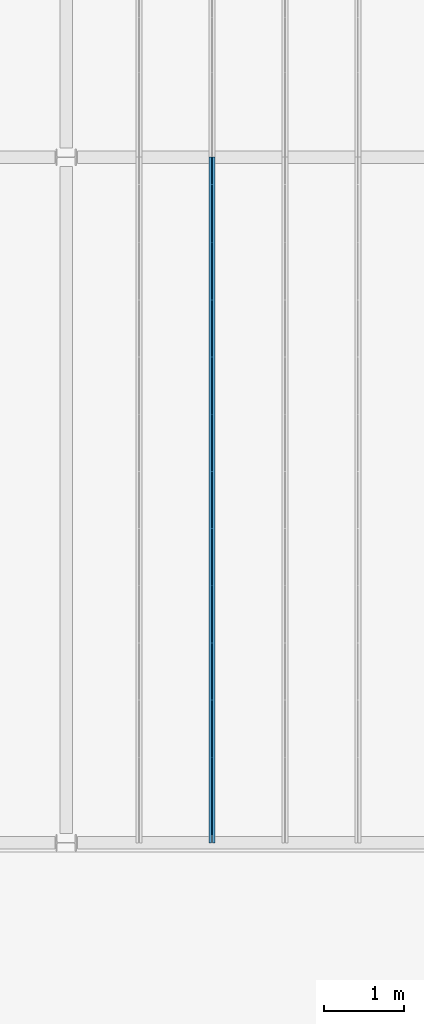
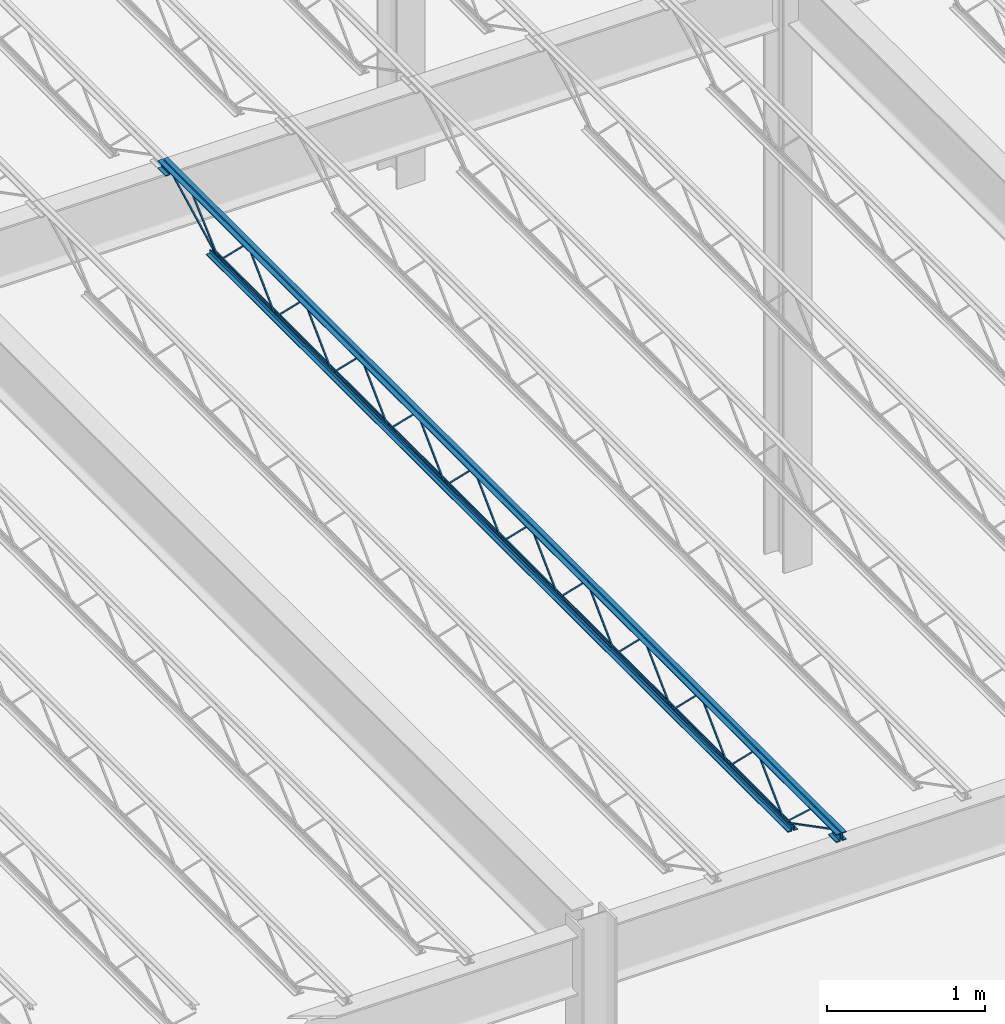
# One storey, part 41 of 119: 1 beam.
"""IFC2X3 building model written with IfcOpenShell, lengths in metres."""

from ifc_helpers import new_model, entity, si_unit, converted_unit, frame, origin, place, context, project, spatial, face_set, surface_model, element, save


model = new_model("IFC2X3")

# Units and contexts
model_context = context("Model", 3, precision=1e-09, world=origin())
plan_context = context("Plan", 3, precision=1e-09, world=origin())
ifc_project = project(units=[si_unit("LENGTHUNIT", "METRE"), si_unit("AREAUNIT", "SQUARE_METRE"), si_unit("VOLUMEUNIT", "CUBIC_METRE"), converted_unit("PLANEANGLEUNIT", "DEGREE", entity("IfcRatioMeasure", 0.01745329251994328), si_unit("PLANEANGLEUNIT", "RADIAN"), dimensions=[0, 0, 0, 0, 0, 0, 0]), si_unit("TIMEUNIT", "SECOND")], contexts=[model_context, plan_context])

# Site, building, storey
site_placement = place(None, origin())
site = spatial("IfcSite", under=ifc_project, at=site_placement, Name="Default", CompositionType="ELEMENT")
building_placement = place(site_placement, origin())
building = spatial("IfcBuilding", under=site, at=building_placement, CompositionType="ELEMENT")
storey_placement = place(building_placement, frame((0.0, 0.0, 4.570000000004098)))
storey = spatial("IfcBuildingStorey", under=building, at=storey_placement, Name="Second Floor", CompositionType="ELEMENT", Elevation=4.570000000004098)

# Beam
beam_placement = place(storey_placement, frame((-24.6538928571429, 10.04000000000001, 4.323999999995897), z_axis=(0.0, 0.0, 1.0), x_axis=(-1.0, 0.0, 0.0)))
element("IfcBeam", 1, at=beam_placement, inside=storey, Name="M_K-Series Bar Joist-Rod Web:14K1:14K1", ObjectType="M_K-Series Bar Joist-Rod Web:14K1", context=model_context, shape_type="SurfaceModel", body=[
    surface_model("IfcFaceBasedSurfaceModel", [(-0.03200000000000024, -2.141200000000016, 0.01110000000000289), (-0.04149999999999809, -2.141200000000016, 0.01110000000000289), (-0.04149999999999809, -2.141200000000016, 0.001600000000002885), (-0.03200000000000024, -2.141200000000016, 0.001600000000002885), (-0.04149999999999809, -2.139961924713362, 0.01110000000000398), (-0.03200000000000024, -2.139961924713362, 0.01110000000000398), (-0.04149999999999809, -2.136088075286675, 0.001600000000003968), (-0.04149999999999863, -1.785138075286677, 0.3449000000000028), (-0.04149999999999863, -1.782661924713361, 0.3449000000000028), (-0.04149999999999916, -1.431711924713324, 0.001600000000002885), (-0.04149999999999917, -1.426600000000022, 0.001600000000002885), (-0.04149999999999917, -1.426600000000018, 0.01110000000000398), (-0.04149999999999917, -1.427838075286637, 0.01110000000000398), (-0.04149999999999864, -1.778788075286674, 0.3544000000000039), (-0.04149999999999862, -1.789011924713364, 0.3544000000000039), (-0.03199999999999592, -2.136088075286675, 0.001600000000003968), (-0.03200000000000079, -1.785138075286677, 0.3449000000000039), (-0.03200000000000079, -1.782661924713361, 0.3449000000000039), (-0.03200000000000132, -1.431711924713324, 0.001600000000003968), (-0.03200000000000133, -1.426600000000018, 0.001600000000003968), (-0.03200000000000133, -1.426600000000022, 0.01110000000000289), (-0.03200000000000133, -1.427838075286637, 0.01110000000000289), (-0.03200000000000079, -1.778788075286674, 0.3544000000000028), (-0.03200000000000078, -1.789011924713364, 0.3544000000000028), (-0.03199999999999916, -2.855800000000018, 0.01110000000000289), (-0.04149999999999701, -2.855800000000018, 0.01110000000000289), (-0.04149999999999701, -2.855800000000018, 0.001600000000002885), (-0.03199999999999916, -2.855800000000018, 0.001600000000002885), (-0.04149999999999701, -2.85456192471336, 0.01110000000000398), (-0.03199999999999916, -2.85456192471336, 0.01110000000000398), (-0.04149999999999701, -2.850688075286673, 0.001600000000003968), (-0.04149999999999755, -2.499738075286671, 0.3449000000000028), (-0.04149999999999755, -2.497261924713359, 0.3449000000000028), (-0.04149999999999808, -2.146311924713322, 0.001600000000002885), (-0.04149999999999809, -2.141200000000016, 0.01110000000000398), (-0.04149999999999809, -2.142438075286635, 0.01110000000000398), (-0.04149999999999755, -2.493388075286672, 0.3544000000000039), (-0.04149999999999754, -2.503611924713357, 0.3544000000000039), (-0.03199999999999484, -2.850688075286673, 0.001600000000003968), (-0.0319999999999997, -2.499738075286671, 0.3449000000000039), (-0.0319999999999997, -2.497261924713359, 0.3449000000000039), (-0.03200000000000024, -2.146311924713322, 0.001600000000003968), (-0.03200000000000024, -2.141200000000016, 0.001600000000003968), (-0.03200000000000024, -2.142438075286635, 0.01110000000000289), (-0.03199999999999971, -2.493388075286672, 0.3544000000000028), (-0.0319999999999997, -2.503611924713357, 0.3544000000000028), (-0.03200000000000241, -3.570400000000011, 0.01110000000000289), (-0.04150000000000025, -3.570400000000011, 0.01110000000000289), (-0.04150000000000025, -3.570400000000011, 0.001600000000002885), (-0.03200000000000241, -3.570400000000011, 0.001600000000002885), (-0.04150000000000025, -3.569161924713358, 0.01110000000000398), (-0.03200000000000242, -3.569161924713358, 0.01110000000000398), (-0.04150000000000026, -3.565288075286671, 0.001600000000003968), (-0.04150000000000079, -3.214338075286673, 0.3449000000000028), (-0.04150000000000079, -3.211861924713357, 0.3449000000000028), (-0.04150000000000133, -2.86091192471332, 0.001600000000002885), (-0.04149999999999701, -2.855800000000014, 0.001600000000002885), (-0.04150000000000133, -2.855800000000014, 0.01110000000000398), (-0.04150000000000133, -2.857038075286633, 0.01110000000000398), (-0.0415000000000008, -3.20798807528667, 0.3544000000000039), (-0.04150000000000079, -3.218211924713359, 0.3544000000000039), (-0.03199999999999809, -3.565288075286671, 0.001600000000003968), (-0.03200000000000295, -3.214338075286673, 0.3449000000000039), (-0.03200000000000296, -3.211861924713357, 0.3449000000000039), (-0.03200000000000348, -2.86091192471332, 0.001600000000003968), (-0.03200000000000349, -2.855800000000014, 0.001600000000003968), (-0.03199999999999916, -2.855800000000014, 0.01110000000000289), (-0.03200000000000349, -2.857038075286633, 0.01110000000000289), (-0.03200000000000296, -3.20798807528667, 0.3544000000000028), (-0.03200000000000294, -3.218211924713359, 0.3544000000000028), (-0.03200000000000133, -4.285000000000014, 0.01110000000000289), (-0.04149999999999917, -4.285000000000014, 0.01110000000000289), (-0.04149999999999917, -4.285000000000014, 0.001600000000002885), (-0.03200000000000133, -4.285000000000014, 0.001600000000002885), (-0.04149999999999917, -4.283761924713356, 0.01110000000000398), (-0.03200000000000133, -4.283761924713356, 0.01110000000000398), (-0.04149999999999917, -4.279888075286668, 0.001600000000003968), (-0.0414999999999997, -3.928938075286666, 0.3449000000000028), (-0.04149999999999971, -3.926461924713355, 0.3449000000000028), (-0.04150000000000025, -3.575511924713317, 0.001600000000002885), (-0.04150000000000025, -3.570400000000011, 0.01110000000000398), (-0.04150000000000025, -3.57163807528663, 0.01110000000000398), (-0.04149999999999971, -3.922588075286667, 0.3544000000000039), (-0.0414999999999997, -3.932811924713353, 0.3544000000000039), (-0.031999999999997, -4.279888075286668, 0.001600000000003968), (-0.03200000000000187, -3.928938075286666, 0.3449000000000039), (-0.03200000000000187, -3.926461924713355, 0.3449000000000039), (-0.0320000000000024, -3.575511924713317, 0.001600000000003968), (-0.03200000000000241, -3.570400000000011, 0.001600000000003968), (-0.03200000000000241, -3.57163807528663, 0.01110000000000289), (-0.03200000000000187, -3.922588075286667, 0.3544000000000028), (-0.03200000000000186, -3.932811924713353, 0.3544000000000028), (-0.03200000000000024, -4.999600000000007, 0.01110000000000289), (-0.04149999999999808, -4.999600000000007, 0.01110000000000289), (-0.04149999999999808, -4.999600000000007, 0.001600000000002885), (-0.03200000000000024, -4.999600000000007, 0.001600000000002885), (-0.04149999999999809, -4.998361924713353, 0.01110000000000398), (-0.03200000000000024, -4.998361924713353, 0.01110000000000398), (-0.04149999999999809, -4.994488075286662, 0.001600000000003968), (-0.04149999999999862, -4.643538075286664, 0.3449000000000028), (-0.04149999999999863, -4.641061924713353, 0.3449000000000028), (-0.04149999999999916, -4.290111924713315, 0.001600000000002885), (-0.04149999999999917, -4.285000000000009, 0.001600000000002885), (-0.04149999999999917, -4.285000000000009, 0.01110000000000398), (-0.04149999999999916, -4.286238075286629, 0.01110000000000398), (-0.04149999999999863, -4.637188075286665, 0.3544000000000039), (-0.04149999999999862, -4.647411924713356, 0.3544000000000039), (-0.03199999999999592, -4.994488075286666, 0.001600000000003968), (-0.03200000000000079, -4.643538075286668, 0.3449000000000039), (-0.03200000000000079, -4.641061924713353, 0.3449000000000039), (-0.03200000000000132, -4.290111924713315, 0.001600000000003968), (-0.03200000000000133, -4.285000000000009, 0.001600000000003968), (-0.03200000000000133, -4.285000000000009, 0.01110000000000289), (-0.03200000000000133, -4.286238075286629, 0.01110000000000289), (-0.03200000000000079, -4.637188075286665, 0.3544000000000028), (-0.03200000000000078, -4.647411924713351, 0.3544000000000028), (-0.03200000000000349, -5.714200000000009, 0.01110000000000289), (-0.04150000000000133, -5.714200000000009, 0.01110000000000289), (-0.04150000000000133, -5.714200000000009, 0.001600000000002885), (-0.03200000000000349, -5.714200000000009, 0.001600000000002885), (-0.04150000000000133, -5.712961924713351, 0.01110000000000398), (-0.03200000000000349, -5.712961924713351, 0.01110000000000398), (-0.04149999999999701, -5.709088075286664, 0.001600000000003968), (-0.04149999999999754, -5.358138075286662, 0.3449000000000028), (-0.04149999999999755, -5.35566192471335, 0.3449000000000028), (-0.04149999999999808, -5.004711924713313, 0.001600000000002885), (-0.04150000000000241, -4.999600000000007, 0.01110000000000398), (-0.04150000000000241, -5.000838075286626, 0.01110000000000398), (-0.04150000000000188, -5.351788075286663, 0.3544000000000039), (-0.04150000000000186, -5.362011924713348, 0.3544000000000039), (-0.03199999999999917, -5.709088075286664, 0.001600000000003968), (-0.03200000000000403, -5.358138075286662, 0.3449000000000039), (-0.03200000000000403, -5.35566192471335, 0.3449000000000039), (-0.03200000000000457, -5.004711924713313, 0.001600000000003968), (-0.03200000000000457, -4.999600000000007, 0.001600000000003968), (-0.03200000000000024, -5.000838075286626, 0.01110000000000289), (-0.03199999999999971, -5.351788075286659, 0.3544000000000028), (-0.0319999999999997, -5.362011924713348, 0.3544000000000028), (-0.03200000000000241, -6.428800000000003, 0.01110000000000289), (-0.04150000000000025, -6.428800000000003, 0.01110000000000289), (-0.04150000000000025, -6.428800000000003, 0.001600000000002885), (-0.03200000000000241, -6.428800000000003, 0.001600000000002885), (-0.04150000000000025, -6.427561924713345, 0.01110000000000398), (-0.03200000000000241, -6.427561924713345, 0.01110000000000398), (-0.04150000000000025, -6.423688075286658, 0.001600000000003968), (-0.04150000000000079, -6.07273807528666, 0.3449000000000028), (-0.04150000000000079, -6.070261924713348, 0.3449000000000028), (-0.04150000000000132, -5.719311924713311, 0.001600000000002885), (-0.04150000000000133, -5.714200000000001, 0.001600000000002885), (-0.04150000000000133, -5.714200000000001, 0.01110000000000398), (-0.04150000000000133, -5.715438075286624, 0.01110000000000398), (-0.04150000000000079, -6.066388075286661, 0.3544000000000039), (-0.04150000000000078, -6.076611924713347, 0.3544000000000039), (-0.03199999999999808, -6.423688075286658, 0.001600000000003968), (-0.03200000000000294, -6.07273807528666, 0.3449000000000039), (-0.03200000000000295, -6.070261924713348, 0.3449000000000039), (-0.03200000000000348, -5.719311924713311, 0.001600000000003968), (-0.03200000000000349, -5.714200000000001, 0.001600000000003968), (-0.03200000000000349, -5.714200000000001, 0.01110000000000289), (-0.03200000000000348, -5.715438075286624, 0.01110000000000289), (-0.03200000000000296, -6.066388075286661, 0.3544000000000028), (-0.03200000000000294, -6.076611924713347, 0.3544000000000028), (-0.03200000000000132, -7.143400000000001, 0.01110000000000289), (-0.04149999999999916, -7.143400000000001, 0.01110000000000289), (-0.04149999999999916, -7.143400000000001, 0.001600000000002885), (-0.03200000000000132, -7.143400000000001, 0.001600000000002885), (-0.04149999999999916, -7.142161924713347, 0.01110000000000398), (-0.03200000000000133, -7.142161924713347, 0.01110000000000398), (-0.04149999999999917, -7.13828807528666, 0.001600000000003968), (-0.0414999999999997, -6.787338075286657, 0.3449000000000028), (-0.0414999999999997, -6.784861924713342, 0.3449000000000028), (-0.04150000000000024, -6.433911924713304, 0.001600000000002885), (-0.04150000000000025, -6.428800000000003, 0.01110000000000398), (-0.04150000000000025, -6.430038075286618, 0.01110000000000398), (-0.04149999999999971, -6.780988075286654, 0.3544000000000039), (-0.0414999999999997, -6.791211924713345, 0.3544000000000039), (-0.031999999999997, -7.13828807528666, 0.001600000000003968), (-0.03200000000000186, -6.787338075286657, 0.3449000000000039), (-0.03200000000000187, -6.784861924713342, 0.3449000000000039), (-0.0320000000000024, -6.433911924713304, 0.001600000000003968), (-0.03200000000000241, -6.428800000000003, 0.001600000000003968), (-0.0320000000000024, -6.430038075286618, 0.01110000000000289), (-0.03200000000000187, -6.780988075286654, 0.3544000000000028), (-0.03200000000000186, -6.791211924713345, 0.3544000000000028), (-0.03200000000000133, -1.426600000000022, 0.01109999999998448), (-0.04149999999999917, -1.426600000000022, 0.01109999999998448), (-0.04149999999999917, -1.426600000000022, 0.001599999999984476), (-0.03200000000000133, -1.426600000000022, 0.001599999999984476), (-0.04149999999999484, -1.425361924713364, 0.01109999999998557), (-0.031999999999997, -1.425361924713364, 0.01109999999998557), (-0.04149999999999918, -1.421488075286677, 0.001599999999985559), (-0.04149999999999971, -1.070538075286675, 0.3448999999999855), (-0.04149999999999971, -1.068061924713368, 0.3448999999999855), (-0.04150000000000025, -0.7171119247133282, 0.001599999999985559), (-0.04150000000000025, -0.7120000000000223, 0.001599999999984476), (-0.04150000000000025, -0.7120000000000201, 0.01109999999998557), (-0.04150000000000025, -0.713238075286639, 0.01109999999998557), (-0.04149999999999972, -1.064188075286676, 0.3543999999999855), (-0.0414999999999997, -1.074411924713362, 0.3543999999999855), (-0.031999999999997, -1.421488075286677, 0.001599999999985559), (-0.03199999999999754, -1.070538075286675, 0.3448999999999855), (-0.03199999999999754, -1.068061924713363, 0.3448999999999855), (-0.03199999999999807, -0.7171119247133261, 0.001599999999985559), (-0.03199999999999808, -0.7120000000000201, 0.001599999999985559), (-0.03200000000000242, -0.7120000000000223, 0.01109999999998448), (-0.03199999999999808, -0.7132380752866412, 0.01109999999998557), (-0.03199999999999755, -1.064188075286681, 0.3543999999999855), (-0.03199999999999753, -1.074411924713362, 0.3543999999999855), (-0.03200000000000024, -7.857999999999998, 0.01110000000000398), (-0.04149999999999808, -7.857999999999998, 0.01110000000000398), (-0.04149999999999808, -7.857999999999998, 0.001600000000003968), (-0.03200000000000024, -7.857999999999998, 0.001600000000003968), (-0.04149999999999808, -7.85676192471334, 0.01110000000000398), (-0.03200000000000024, -7.85676192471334, 0.01110000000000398), (-0.04149999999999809, -7.852888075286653, 0.001600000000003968), (-0.04149999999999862, -7.501938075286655, 0.3449000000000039), (-0.04149999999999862, -7.499461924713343, 0.3449000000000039), (-0.04149999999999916, -7.148511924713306, 0.001600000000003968), (-0.04149999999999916, -7.143399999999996, 0.001600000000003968), (-0.04149999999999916, -7.143399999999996, 0.01110000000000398), (-0.04149999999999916, -7.144638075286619, 0.01110000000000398), (-0.04149999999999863, -7.495588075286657, 0.3544000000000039), (-0.04149999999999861, -7.505811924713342, 0.3544000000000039), (-0.03199999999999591, -7.852888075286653, 0.001600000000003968), (-0.03200000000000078, -7.501938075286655, 0.3449000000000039), (-0.03200000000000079, -7.499461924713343, 0.3449000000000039), (-0.03200000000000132, -7.148511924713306, 0.001600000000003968), (-0.03200000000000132, -7.143399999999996, 0.001600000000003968), (-0.03200000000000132, -7.143399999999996, 0.01110000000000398), (-0.03200000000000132, -7.144638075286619, 0.01110000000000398), (-0.03200000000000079, -7.495588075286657, 0.3544000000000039), (-0.03200000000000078, -7.505811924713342, 0.3544000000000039), (-0.04150000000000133, 0.0, 0.3559999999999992), (-0.07350000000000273, 0.0, 0.3559999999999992), (-0.07350000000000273, 0.0, 0.3494999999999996), (-0.04799999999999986, 0.0, 0.3494999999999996), (-0.04799999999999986, 0.0, 0.3239999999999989), (-0.04150000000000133, 0.0, 0.3239999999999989), (-0.03200000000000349, 0.0, 0.3559999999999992), (-0.03200000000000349, 0.0, 0.3239999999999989), (-0.02550000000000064, 0.0, 0.3239999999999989), (-0.02550000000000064, 0.0, 0.3494999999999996), (0.0, 0.0, 0.3494999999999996), (0.0, 0.0, 0.3559999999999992), (-0.04149999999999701, -8.57, 0.3559999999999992), (-0.07349999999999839, -8.57, 0.3559999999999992), (-0.07349999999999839, -8.57, 0.3494999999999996), (-0.04799999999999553, -8.57, 0.3494999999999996), (-0.04799999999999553, -8.57, 0.3239999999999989), (-0.04149999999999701, -8.57, 0.3239999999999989), (-0.03199999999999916, -8.57, 0.3559999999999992), (-0.03199999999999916, -8.57, 0.3239999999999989), (-0.02549999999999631, -8.57, 0.3239999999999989), (-0.02549999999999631, -8.57, 0.3494999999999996), (0.0, -8.57, 0.3494999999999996), (0.0, -8.57, 0.3559999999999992), (-0.03199999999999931, -8.470000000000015, 0.2924999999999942), (0.0, -8.470000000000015, 0.2924999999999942), (0.0, -8.470000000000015, 0.2989999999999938), (-0.02550000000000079, -8.470000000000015, 0.2989999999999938), (-0.02550000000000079, -8.470000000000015, 0.3239999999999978), (-0.03199999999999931, -8.470000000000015, 0.3239999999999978), (-0.07349999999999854, -8.470000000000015, 0.2924999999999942), (-0.04149999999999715, -8.470000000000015, 0.2924999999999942), (-0.04149999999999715, -8.470000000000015, 0.3239999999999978), (-0.048, -8.470000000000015, 0.3239999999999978), (-0.048, -8.470000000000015, 0.2989999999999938), (-0.07349999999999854, -8.470000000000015, 0.2989999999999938), (-0.03199999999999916, -8.57, 0.2924999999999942), (0.0, -8.57, 0.2924999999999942), (0.0, -8.57, 0.2989999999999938), (-0.02550000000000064, -8.57, 0.2989999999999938), (-0.02550000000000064, -8.57, 0.3239999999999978), (-0.03199999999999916, -8.57, 0.3239999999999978), (-0.07349999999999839, -8.57, 0.2924999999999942), (-0.04149999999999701, -8.57, 0.2924999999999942), (-0.04149999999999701, -8.57, 0.3239999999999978), (-0.04799999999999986, -8.57, 0.3239999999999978), (-0.04799999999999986, -8.57, 0.2989999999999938), (-0.07349999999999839, -8.57, 0.2989999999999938), (-0.04150000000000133, 0.0, 0.2924999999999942), (-0.04150000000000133, 0.0, 0.3239999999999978), (-0.04800000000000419, 0.0, 0.3239999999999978), (-0.04800000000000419, 0.0, 0.2989999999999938), (-0.07350000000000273, 0.0, 0.2989999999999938), (-0.07350000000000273, 0.0, 0.2924999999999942), (-0.03200000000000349, 0.0, 0.2924999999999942), (0.0, 0.0, 0.2924999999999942), (0.0, 0.0, 0.2989999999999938), (-0.02550000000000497, 0.0, 0.2989999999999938), (-0.02550000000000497, 0.0, 0.3239999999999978), (-0.03200000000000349, 0.0, 0.3239999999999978), (-0.04150000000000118, -0.1000000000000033, 0.2924999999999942), (-0.04150000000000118, -0.1000000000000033, 0.3239999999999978), (-0.04800000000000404, -0.1000000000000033, 0.3239999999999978), (-0.04800000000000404, -0.1000000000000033, 0.2989999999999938), (-0.07350000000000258, -0.1000000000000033, 0.2989999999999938), (-0.07350000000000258, -0.1000000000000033, 0.2924999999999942), (-0.03200000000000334, -0.1000000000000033, 0.2924999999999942), (0.0, -0.1000000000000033, 0.2924999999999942), (0.0, -0.1000000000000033, 0.2989999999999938), (-0.02550000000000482, -0.1000000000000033, 0.2989999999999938), (-0.02550000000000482, -0.1000000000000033, 0.3239999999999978), (-0.03200000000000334, -0.1000000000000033, 0.3239999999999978), (-0.04150000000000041, -0.6119999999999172, 0.0), (-0.04150000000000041, -0.6119999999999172, 0.03199999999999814), (-0.04799999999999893, -0.6119999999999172, 0.03199999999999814), (-0.04799999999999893, -0.6119999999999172, 0.006499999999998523), (-0.0735000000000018, -0.6119999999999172, 0.006499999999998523), (-0.0735000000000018, -0.6119999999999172, 0.0), (-0.03200000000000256, -0.6119999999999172, 0.0), (0.0, -0.6119999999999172, 0.0), (0.0, -0.6119999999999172, 0.006499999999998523), (-0.02549999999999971, -0.6119999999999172, 0.006499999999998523), (-0.02549999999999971, -0.6119999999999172, 0.03199999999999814), (-0.03200000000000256, -0.6119999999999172, 0.03199999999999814), (-0.04149999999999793, -7.957999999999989, 0.0), (-0.04149999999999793, -7.957999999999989, 0.03199999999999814), (-0.04799999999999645, -7.957999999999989, 0.03199999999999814), (-0.04799999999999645, -7.957999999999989, 0.006499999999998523), (-0.07349999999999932, -7.957999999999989, 0.006499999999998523), (-0.07349999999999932, -7.957999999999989, 0.0), (-0.03200000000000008, -7.957999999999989, 0.0), (0.0, -7.957999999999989, 0.0), (0.0, -7.957999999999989, 0.006499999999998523), (-0.02549999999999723, -7.957999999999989, 0.006499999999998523), (-0.02549999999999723, -7.957999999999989, 0.03199999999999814), (-0.03200000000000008, -7.957999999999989, 0.03199999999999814), (-0.03200000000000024, -7.855811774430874, 0.01056594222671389), (-0.04149999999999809, -7.855811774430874, 0.01056594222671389), (-0.04149999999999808, -7.860188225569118, 0.002134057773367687), (-0.03200000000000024, -7.860188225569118, 0.00213405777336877), (-0.03199999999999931, -8.4688407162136, 0.3287499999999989), (-0.03199999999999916, -8.57, 0.3287499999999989), (-0.03199999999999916, -8.57, 0.3192499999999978), (-0.03199999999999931, -8.471159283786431, 0.3192499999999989), (-0.04150000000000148, -8.471159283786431, 0.3192499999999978), (-0.04149999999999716, -8.4688407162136, 0.3287499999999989), (-0.04149999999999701, -8.57, 0.3287499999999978), (-0.04149999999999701, -8.57, 0.3192499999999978), (-0.03199999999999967, -8.235257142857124, 0.3417000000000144), (-0.04149999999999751, -8.235257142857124, 0.3417000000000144), (-0.04149999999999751, -8.235257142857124, 0.3322000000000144), (-0.03199999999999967, -8.235257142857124, 0.3322000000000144), (-0.04149999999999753, -8.220724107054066, 0.3417000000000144), (-0.03199999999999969, -8.220724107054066, 0.3417000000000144), (-0.04149999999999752, -8.224390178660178, 0.3322000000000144), (-0.04149999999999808, -7.861190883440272, 0.002831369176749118), (-0.04149999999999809, -7.854809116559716, 0.009868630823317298), (-0.03199999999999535, -8.224390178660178, 0.3322000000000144), (-0.03200000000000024, -7.861190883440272, 0.002831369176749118), (-0.03200000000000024, -7.854809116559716, 0.009868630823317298), (-0.03200000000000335, -0.0978117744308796, 0.3197840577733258), (-0.03200000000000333, -0.1021882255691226, 0.328215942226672), (-0.04150000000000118, -0.1021882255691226, 0.328215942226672), (-0.04150000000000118, -0.0978117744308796, 0.3197840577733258), (-0.03200000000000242, -0.7098117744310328, 0.002134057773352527), (-0.03200000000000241, -0.7141882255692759, 0.01056594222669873), (-0.04150000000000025, -0.7141882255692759, 0.01056594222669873), (-0.04150000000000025, -0.7098117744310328, 0.002134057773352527), (-0.03200000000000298, -0.3369634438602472, 0.3461600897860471), (-0.03200000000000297, -0.343407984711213, 0.3531399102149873), (-0.04150000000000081, -0.343407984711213, 0.3531399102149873), (-0.04150000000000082, -0.3369634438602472, 0.3461600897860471), (-0.03200000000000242, -0.7087777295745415, 0.00286008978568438), (-0.03200000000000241, -0.7152222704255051, 0.009839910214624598), (-0.04150000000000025, -0.7152222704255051, 0.009839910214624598), (-0.04150000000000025, -0.7087777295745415, 0.00286008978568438)], [face_set([[[0, 1, 2, 3]], [[1, 4, 5, 0]], [[2, 6, 7, 8, 9, 10, 11, 12, 13, 14, 4, 1]], [[3, 2, 6, 15]], [[0, 3, 15, 16, 17, 18, 19, 20, 21, 22, 23, 5]], [[4, 5, 23, 14]], [[15, 16, 7, 6]], [[14, 13, 22, 23]], [[16, 7, 8, 17]], [[13, 12, 21, 22]], [[17, 8, 9, 18]], [[20, 11, 10, 19]], [[12, 11, 20, 21]], [[18, 9, 10, 19]]]), face_set([[[24, 25, 26, 27]], [[25, 28, 29, 24]], [[26, 30, 31, 32, 33, 2, 34, 35, 36, 37, 28, 25]], [[27, 26, 30, 38]], [[24, 27, 38, 39, 40, 41, 42, 0, 43, 44, 45, 29]], [[28, 29, 45, 37]], [[38, 39, 31, 30]], [[37, 36, 44, 45]], [[39, 31, 32, 40]], [[36, 35, 43, 44]], [[40, 32, 33, 41]], [[0, 34, 2, 42]], [[35, 34, 0, 43]], [[41, 33, 2, 42]]]), face_set([[[46, 47, 48, 49]], [[47, 50, 51, 46]], [[48, 52, 53, 54, 55, 56, 57, 58, 59, 60, 50, 47]], [[49, 48, 52, 61]], [[46, 49, 61, 62, 63, 64, 65, 66, 67, 68, 69, 51]], [[50, 51, 69, 60]], [[61, 62, 53, 52]], [[60, 59, 68, 69]], [[62, 53, 54, 63]], [[59, 58, 67, 68]], [[63, 54, 55, 64]], [[66, 57, 56, 65]], [[58, 57, 66, 67]], [[64, 55, 56, 65]]]), face_set([[[70, 71, 72, 73]], [[71, 74, 75, 70]], [[72, 76, 77, 78, 79, 48, 80, 81, 82, 83, 74, 71]], [[73, 72, 76, 84]], [[70, 73, 84, 85, 86, 87, 88, 46, 89, 90, 91, 75]], [[74, 75, 91, 83]], [[84, 85, 77, 76]], [[83, 82, 90, 91]], [[85, 77, 78, 86]], [[82, 81, 89, 90]], [[86, 78, 79, 87]], [[46, 80, 48, 88]], [[81, 80, 46, 89]], [[87, 79, 48, 88]]]), face_set([[[92, 93, 94, 95]], [[93, 96, 97, 92]], [[94, 98, 99, 100, 101, 102, 103, 104, 105, 106, 96, 93]], [[95, 94, 98, 107]], [[92, 95, 107, 108, 109, 110, 111, 112, 113, 114, 115, 97]], [[96, 97, 115, 106]], [[107, 108, 99, 98]], [[106, 105, 114, 115]], [[108, 99, 100, 109]], [[105, 104, 113, 114]], [[109, 100, 101, 110]], [[112, 103, 102, 111]], [[104, 103, 112, 113]], [[110, 101, 102, 111]]]), face_set([[[116, 117, 118, 119]], [[117, 120, 121, 116]], [[118, 122, 123, 124, 125, 94, 126, 127, 128, 129, 120, 117]], [[119, 118, 122, 130]], [[116, 119, 130, 131, 132, 133, 134, 92, 135, 136, 137, 121]], [[120, 121, 137, 129]], [[130, 131, 123, 122]], [[129, 128, 136, 137]], [[131, 123, 124, 132]], [[128, 127, 135, 136]], [[132, 124, 125, 133]], [[92, 126, 94, 134]], [[127, 126, 92, 135]], [[133, 125, 94, 134]]]), face_set([[[138, 139, 140, 141]], [[139, 142, 143, 138]], [[140, 144, 145, 146, 147, 148, 149, 150, 151, 152, 142, 139]], [[141, 140, 144, 153]], [[138, 141, 153, 154, 155, 156, 157, 158, 159, 160, 161, 143]], [[142, 143, 161, 152]], [[153, 154, 145, 144]], [[152, 151, 160, 161]], [[154, 145, 146, 155]], [[151, 150, 159, 160]], [[155, 146, 147, 156]], [[158, 149, 148, 157]], [[150, 149, 158, 159]], [[156, 147, 148, 157]]]), face_set([[[162, 163, 164, 165]], [[163, 166, 167, 162]], [[164, 168, 169, 170, 171, 140, 172, 173, 174, 175, 166, 163]], [[165, 164, 168, 176]], [[162, 165, 176, 177, 178, 179, 180, 138, 181, 182, 183, 167]], [[166, 167, 183, 175]], [[176, 177, 169, 168]], [[175, 174, 182, 183]], [[177, 169, 170, 178]], [[174, 173, 181, 182]], [[178, 170, 171, 179]], [[138, 172, 140, 180]], [[173, 172, 138, 181]], [[179, 171, 140, 180]]]), face_set([[[184, 185, 186, 187]], [[185, 188, 189, 184]], [[186, 190, 191, 192, 193, 194, 195, 196, 197, 198, 188, 185]], [[187, 186, 190, 199]], [[184, 187, 199, 200, 201, 202, 203, 204, 205, 206, 207, 189]], [[188, 189, 207, 198]], [[199, 200, 191, 190]], [[198, 197, 206, 207]], [[200, 191, 192, 201]], [[197, 196, 205, 206]], [[201, 192, 193, 202]], [[204, 195, 194, 203]], [[196, 195, 204, 205]], [[202, 193, 194, 203]]]), face_set([[[208, 209, 210, 211]], [[209, 212, 213, 208]], [[210, 214, 215, 216, 217, 218, 219, 220, 221, 222, 212, 209]], [[211, 210, 214, 223]], [[208, 211, 223, 224, 225, 226, 227, 228, 229, 230, 231, 213]], [[212, 213, 231, 222]], [[223, 224, 215, 214]], [[222, 221, 230, 231]], [[224, 215, 216, 225]], [[221, 220, 229, 230]], [[225, 216, 217, 226]], [[228, 219, 218, 227]], [[220, 219, 228, 229]], [[226, 217, 218, 227]]]), face_set([[[232, 233, 234, 235, 236, 237]], [[238, 239, 240, 241, 242, 243]], [[244, 245, 246, 247, 248, 249]], [[250, 251, 252, 253, 254, 255]], [[237, 232, 244, 249]], [[236, 237, 249, 248]], [[235, 247, 248, 236]], [[234, 235, 247, 246]], [[233, 245, 246, 234]], [[232, 244, 245, 233]], [[243, 255, 250, 238]], [[242, 243, 255, 254]], [[241, 242, 254, 253]], [[240, 241, 253, 252]], [[239, 240, 252, 251]], [[238, 250, 251, 239]]]), face_set([[[256, 257, 258, 259, 260, 261]], [[262, 263, 264, 265, 266, 267]], [[268, 269, 270, 271, 272, 273]], [[274, 275, 276, 277, 278, 279]], [[261, 273, 268, 256]], [[260, 272, 273, 261]], [[259, 260, 272, 271]], [[258, 270, 271, 259]], [[257, 258, 270, 269]], [[256, 257, 269, 268]], [[267, 279, 274, 262]], [[266, 278, 279, 267]], [[265, 277, 278, 266]], [[264, 276, 277, 265]], [[263, 264, 276, 275]], [[262, 263, 275, 274]]]), face_set([[[280, 281, 282, 283, 284, 285]], [[286, 287, 288, 289, 290, 291]], [[292, 293, 294, 295, 296, 297]], [[298, 299, 300, 301, 302, 303]], [[285, 280, 292, 297]], [[284, 296, 297, 285]], [[283, 295, 296, 284]], [[282, 294, 295, 283]], [[281, 293, 294, 282]], [[280, 281, 293, 292]], [[291, 303, 298, 286]], [[290, 302, 303, 291]], [[289, 290, 302, 301]], [[288, 300, 301, 289]], [[287, 288, 300, 299]], [[286, 287, 299, 298]]]), face_set([[[304, 305, 306, 307, 308, 309]], [[310, 311, 312, 313, 314, 315]], [[316, 317, 318, 319, 320, 321]], [[322, 323, 324, 325, 326, 327]], [[309, 304, 316, 321]], [[308, 320, 321, 309]], [[307, 319, 320, 308]], [[306, 318, 319, 307]], [[305, 317, 318, 306]], [[304, 305, 317, 316]], [[315, 327, 322, 310]], [[314, 326, 327, 315]], [[313, 314, 326, 325]], [[312, 324, 325, 313]], [[311, 312, 324, 323]], [[310, 311, 323, 322]]]), face_set([[[328, 329, 330, 331]], [[331, 328, 332, 333, 334, 335]], [[330, 331, 335, 336]], [[329, 337, 338, 339, 336, 330]], [[328, 332, 337, 329]], [[333, 338, 339, 334]], [[336, 335, 334, 339]], [[332, 333, 338, 337]]]), face_set([[[340, 341, 342, 343]], [[341, 344, 345, 340]], [[342, 346, 347, 348, 344, 341]], [[343, 342, 346, 349]], [[340, 343, 349, 350, 351, 345]], [[351, 348, 347, 350]], [[344, 348, 351, 345]], [[349, 346, 347, 350]]]), face_set([[[352, 353, 354, 355]], [[356, 357, 358, 359]], [[355, 352, 356, 359]], [[354, 358, 359, 355]], [[353, 357, 358, 354]], [[352, 353, 357, 356]]]), face_set([[[360, 361, 362, 363]], [[364, 365, 366, 367]], [[363, 367, 364, 360]], [[362, 366, 367, 363]], [[361, 362, 366, 365]], [[360, 361, 365, 364]]])]),
])

save(model, "model.ifc")
